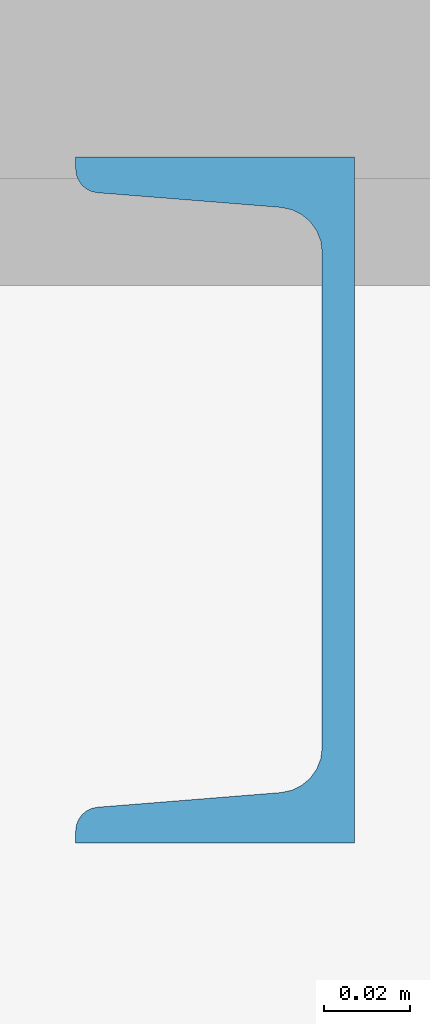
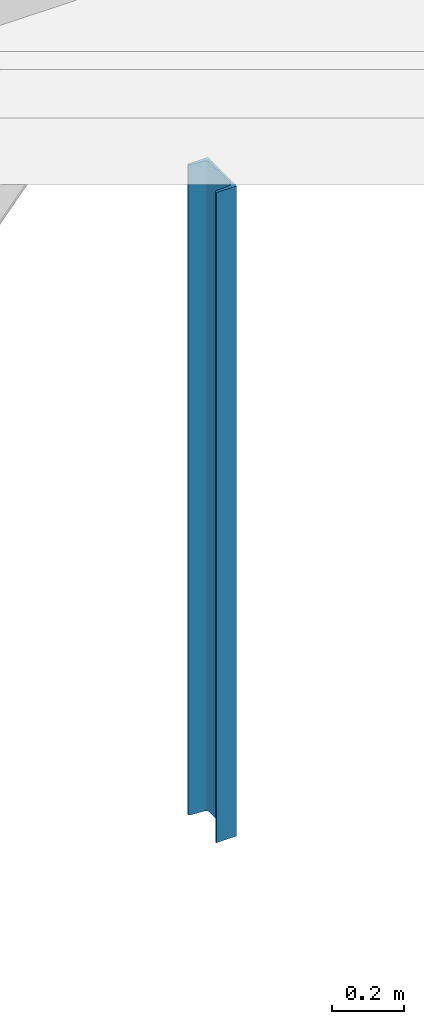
# One storey, part 2 of 29: 1 column.
"""IFC2X3 building model written with IfcOpenShell, lengths in centimetres."""

from ifc_helpers import new_model, entity, si_unit, converted_unit, derived_unit, direction, frame, frame_2d, origin, place, context, subcontext, project, spatial, polyline, circle_curve, parameter, trimmed, segment, composite_curve, outline, extrude, source, transform, mapped, material, type_object, type_shapes, element, save


model = new_model("IFC2X3")

# Units and contexts
model_context = context("Model", 3, precision=0.001, world=origin(), true_north=direction((6.12303176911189e-17, 1.0)))
body_context = subcontext(model_context, "Body", "Model", "MODEL_VIEW")
ifc_project = project(units=[si_unit("LENGTHUNIT", "METRE", prefix="CENTI"), si_unit("AREAUNIT", "SQUARE_METRE"), si_unit("VOLUMEUNIT", "CUBIC_METRE"), converted_unit("PLANEANGLEUNIT", "DEGREE", entity("IfcRatioMeasure", 0.0174532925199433), si_unit("PLANEANGLEUNIT", "RADIAN"), dimensions=[0, 0, 0, 0, 0, 0, 0]), si_unit("MASSUNIT", "GRAM", prefix="KILO"), derived_unit("MASSDENSITYUNIT", [(si_unit("MASSUNIT", "GRAM", prefix="KILO"), 1), (si_unit("LENGTHUNIT", "METRE"), -3)]), derived_unit("MOMENTOFINERTIAUNIT", [(si_unit("LENGTHUNIT", "METRE"), 4)]), si_unit("TIMEUNIT", "SECOND"), si_unit("FREQUENCYUNIT", "HERTZ"), si_unit("THERMODYNAMICTEMPERATUREUNIT", "DEGREE_CELSIUS"), derived_unit("THERMALTRANSMITTANCEUNIT", [(si_unit("MASSUNIT", "GRAM", prefix="KILO"), 1), (si_unit("THERMODYNAMICTEMPERATUREUNIT", "KELVIN"), -1), (si_unit("TIMEUNIT", "SECOND"), -3)]), derived_unit("VOLUMETRICFLOWRATEUNIT", [(si_unit("LENGTHUNIT", "METRE"), 3), (si_unit("TIMEUNIT", "SECOND"), -1)]), si_unit("ELECTRICCURRENTUNIT", "AMPERE"), si_unit("ELECTRICVOLTAGEUNIT", "VOLT"), si_unit("POWERUNIT", "WATT"), si_unit("FORCEUNIT", "NEWTON", prefix="KILO"), si_unit("ILLUMINANCEUNIT", "LUX"), si_unit("LUMINOUSFLUXUNIT", "LUMEN"), si_unit("LUMINOUSINTENSITYUNIT", "CANDELA"), derived_unit("USERDEFINED", [(si_unit("MASSUNIT", "GRAM", prefix="KILO"), -1), (si_unit("LENGTHUNIT", "METRE"), -2), (si_unit("TIMEUNIT", "SECOND"), 3), (si_unit("LUMINOUSFLUXUNIT", "LUMEN"), 1)]), derived_unit("LINEARVELOCITYUNIT", [(si_unit("LENGTHUNIT", "METRE"), 1), (si_unit("TIMEUNIT", "SECOND"), -1)]), si_unit("PRESSUREUNIT", "PASCAL"), derived_unit("USERDEFINED", [(si_unit("LENGTHUNIT", "METRE"), -2), (si_unit("MASSUNIT", "GRAM", prefix="KILO"), 1), (si_unit("TIMEUNIT", "SECOND"), -2)]), derived_unit("LINEARFORCEUNIT", [(si_unit("MASSUNIT", "GRAM", prefix="KILO"), 1), (si_unit("LENGTHUNIT", "METRE"), 1), (si_unit("TIMEUNIT", "SECOND"), -2), (si_unit("LENGTHUNIT", "METRE"), -1)]), derived_unit("PLANARFORCEUNIT", [(si_unit("MASSUNIT", "GRAM", prefix="KILO"), 1), (si_unit("LENGTHUNIT", "METRE"), 1), (si_unit("TIMEUNIT", "SECOND"), -2), (si_unit("LENGTHUNIT", "METRE"), -2)])], contexts=[model_context])

# Site, building, storey
site_placement = place(None, origin())
site = spatial("IfcSite", under=ifc_project, at=site_placement, Name="Default", CompositionType="ELEMENT")
building_placement = place(site_placement, origin())
building = spatial("IfcBuilding", under=site, at=building_placement, CompositionType="ELEMENT")
storey_placement = place(building_placement, frame((0.0, 0.0, 545.0)))
storey = spatial("IfcBuildingStorey", under=building, at=storey_placement, Name="Poziom 1K +5,45", CompositionType="ELEMENT", Elevation=544.999999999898)

# Column
ifc_material = material(Name="Stal konstrukcyjna - S235")
column_type = type_object("IfcColumnType", Name="Słup C:C160", PredefinedType="COLUMN", material=ifc_material)
shared_shape = source(origin(), body_context, "Body", "SweptSolid", [
    extrude(outline(composite_curve([segment(polyline([(-8.0, -2.92330641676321), (-7.71756820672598, -2.92330641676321)]), True, "CONTINUOUS"), segment(trimmed(circle_curve(frame_2d((-7.71756820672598, -2.37330641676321), x_axis=(0.0, -1.0)), 0.55), [parameter(0.0)], [parameter(85.4300000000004)], True, "PARAMETER"), True, "CONTINUOUS"), segment(polyline([(-7.16931680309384, -2.4171287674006), (-6.82741276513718, 1.86035443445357)]), True, "CONTINUOUS"), segment(trimmed(circle_curve(frame_2d((-5.78075099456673, 1.77669358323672), x_axis=(-0.996820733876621, 0.0796770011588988)), 1.05), [parameter(274.569999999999)], [parameter(0.0)], True, "PARAMETER"), False, "CONTINUOUS"), segment(polyline([(-5.78075099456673, 2.82669358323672), (5.78075099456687, 2.82669358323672)]), True, "CONTINUOUS"), segment(trimmed(circle_curve(frame_2d((5.78075099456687, 1.77669358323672), x_axis=(0.0, 1.0)), 1.05), [parameter(274.57)], [parameter(0.0)], True, "PARAMETER"), False, "CONTINUOUS"), segment(polyline([(6.82741276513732, 1.86035443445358), (7.16931680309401, -2.4171287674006)]), True, "CONTINUOUS"), segment(trimmed(circle_curve(frame_2d((7.71756820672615, -2.3733064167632), x_axis=(-0.996820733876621, -0.0796770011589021)), 0.550000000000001), [parameter(0.0)], [parameter(85.4300000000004)], True, "PARAMETER"), True, "CONTINUOUS"), segment(polyline([(7.71756820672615, -2.9233064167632), (8.0, -2.9233064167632)]), True, "CONTINUOUS"), segment(polyline([(8.0, -2.9233064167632), (8.0, 3.57669358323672)]), True, "CONTINUOUS"), segment(polyline([(8.0, 3.57669358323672), (-8.0, 3.57669358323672)]), True, "CONTINUOUS"), segment(polyline([(-8.0, 3.57669358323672), (-8.0, -2.92330641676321)]), True, "CONTINUOUS")], self_intersect=False)), frame((-1.73669358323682, 0.0, 271.0), z_axis=(0.0, 0.0, 1.0), x_axis=(0.0, -1.0, 0.0)), (0.0, 0.0, 1.0), 218.999999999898),
])
type_shapes(column_type, [shared_shape])
column_placement = place(storey_placement, frame((114.894891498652, 1450.12745207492, -545.0)))
element("IfcColumn", 1, at=column_placement, inside=storey, type_object=column_type, Name="Słup C:C160", ObjectType="Słup C:C160", context=body_context, shape_type="MappedRepresentation", body=[
    mapped(shared_shape, transform((0.0, 0.0, 0.0), scale=1.0)),
])

save(model, "model.ifc")
